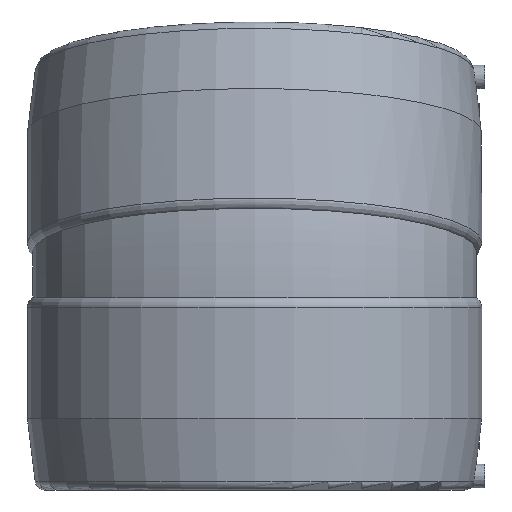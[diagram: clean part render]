
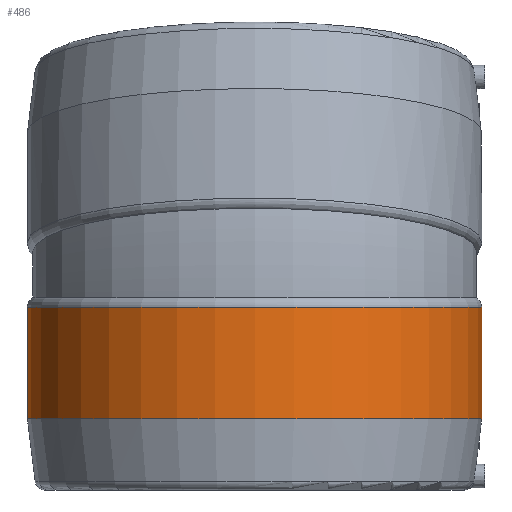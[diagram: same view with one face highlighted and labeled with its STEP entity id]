
A CAD part, left-side view. The second image highlights one B-rep face of the part: STEP entity #486.
In plain terms, the highlighted cylindrical face has radius 195 mm (diameter 390 mm), a full revolution.
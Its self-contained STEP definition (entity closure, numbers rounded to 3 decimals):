
#61=CYLINDRICAL_SURFACE('',#552,195.);
#109=ORIENTED_EDGE('',*,*,#203,.T.);
#110=ORIENTED_EDGE('',*,*,#201,.F.);
#201=EDGE_CURVE('',#256,#256,#303,.T.);
#203=EDGE_CURVE('',#258,#258,#305,.T.);
#256=VERTEX_POINT('',#863);
#258=VERTEX_POINT('',#869);
#303=CIRCLE('',#549,195.);
#305=CIRCLE('',#553,195.);
#357=EDGE_LOOP('',(#109));
#358=EDGE_LOOP('',(#110));
#424=FACE_BOUND('',#357,.T.);
#425=FACE_BOUND('',#358,.T.);
#486=ADVANCED_FACE('',(#424,#425),#61,.T.);
#549=AXIS2_PLACEMENT_3D('',#862,#662,#663);
#552=AXIS2_PLACEMENT_3D('',#867,#668,#669);
#553=AXIS2_PLACEMENT_3D('',#868,#670,#671);
#662=DIRECTION('',(0.,0.,-1.));
#663=DIRECTION('',(-1.,0.,0.));
#668=DIRECTION('',(0.,0.,-1.));
#669=DIRECTION('',(-1.,0.,0.));
#670=DIRECTION('',(0.,0.,-1.));
#671=DIRECTION('',(-1.,0.,0.));
#862=CARTESIAN_POINT('',(0.,0.,-124.));
#863=CARTESIAN_POINT('',(-195.,0.,-124.));
#867=CARTESIAN_POINT('',(0.,0.,-57.));
#868=CARTESIAN_POINT('',(0.,0.,-28.));
#869=CARTESIAN_POINT('',(-195.,0.,-28.));
